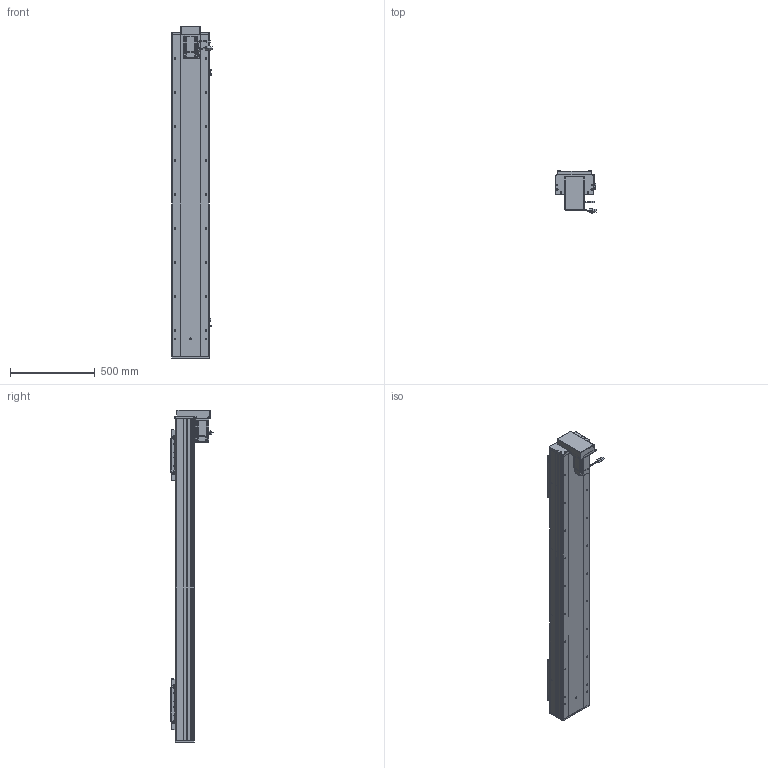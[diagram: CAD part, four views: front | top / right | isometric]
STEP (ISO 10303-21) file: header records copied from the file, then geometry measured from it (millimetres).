
FILE_DESCRIPTION (( 'STEP AP203' ), '1' );
FILE_NAME ('RY220F-L2525-800-BK-邧嶺.SLDASM_1450.step', '2022-08-06T08:08:11', ( '' ), ( '' ), 'SwSTEP 2.0', 'SolidWorks 2016', '' );
FILE_SCHEMA (( 'CONFIG_CONTROL_DESIGN' ));
Length unit declared in the file: millimetre
Products named in the file (15): RY220F-詩湍揤踡輸; RY220F蛌殏菁釱-800-邧嶺_1450; 侐源滅袉蝶; RY220F-祥凄詩湍-蛌殏-800_1450; RY220F-滅鳥奻裔; 滅袉蝶18-24; RY220狟殏萇儂假蚾啣; RY220狟殏萇儂欶; RY220F-蛌殏奻裔啣-800_1450; 覜茼ん672; 怢湛750W_ECMA-CX0807ES; RY220F綴裔啣; RY220F-L2525-800-BK-邧嶺.SLDASM_1450; RY220F-672覜茼んえ; RY220F臏賑釱25-32佪裝
Assembly tree (24 placements, depth 2):
  RY220F-L2525-800-BK-邧嶺.SLDASM_1450
    RY220F蛌殏菁釱-800-邧嶺_1450
    RY220F-蛌殏奻裔啣-800_1450  x2
    怢湛750W_ECMA-CX0807ES
    RY220F臏賑釱25-32佪裝  x2
    RY220F-滅鳥奻裔  x2
    滅袉蝶18-24  x3
    RY220F綴裔啣
    RY220F-祥凄詩湍-蛌殏-800_1450
    RY220F-詩湍揤踡輸  x2
    覜茼ん672  x3
    RY220F-672覜茼んえ  x2
    侐源滅袉蝶  x2
    RY220狟殏萇儂假蚾啣
    RY220狟殏萇儂欶
Bounding box: 237.27 x 247.24 x 1953 mm (x, y, z)
Volume: 17566548.2 mm3; surface area: 4595254.1 mm2
Topology: 25 solids, 25 shells, 2847 faces, 7726 edges, 4761 vertices
Faces by surface type: cylinder 1274, plane 1062, cone 440, bspline 45, sphere 16, torus 10
Entity records: 70769 total; most frequent: CARTESIAN_POINT 19003, ORIENTED_EDGE 10442, DIRECTION 10209, EDGE_CURVE 5221, AXIS2_PLACEMENT_3D 3634, VERTEX_POINT 3377, VECTOR 2941, LINE 2941
